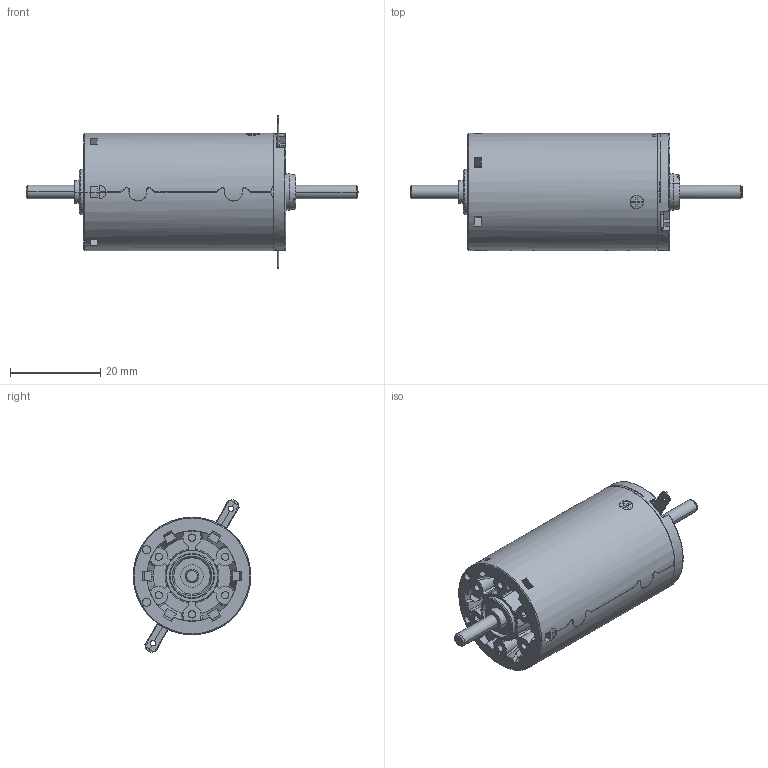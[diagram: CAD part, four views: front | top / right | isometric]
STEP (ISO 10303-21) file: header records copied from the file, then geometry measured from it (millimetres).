
FILE_DESCRIPTION((''),'2;1');
FILE_NAME('110192_AMAX26_EB_4W_SL_2WE','2016-10-14T',('mmagvisi'),(''),'CREO PARAMETRIC BY PTC INC, 2016050','CREO PARAMETRIC BY PTC INC, 2016050','');
FILE_SCHEMA(('CONFIG_CONTROL_DESIGN'));
Length unit declared in the file: millimetre
Products named in the file (1): 110192_AMAX26_EB_4W_SL_2WE
Bounding box: 73.5 x 26 x 33.86 mm (x, y, z)
Volume: 23155.2 mm3; surface area: 6720.4 mm2
Topology: 1 solids, 1 shells, 393 faces, 1079 edges, 698 vertices
Faces by surface type: plane 232, cylinder 111, cone 24, bspline 24, torus 2
Entity records: 20147 total; most frequent: CARTESIAN_POINT 4860, ORIENTED_EDGE 2158, DIRECTION 1919, PRESENTATION_STYLE_ASSIGNMENT 1365, STYLED_ITEM 1080, CURVE_STYLE 1079, EDGE_CURVE 1079, VERTEX_POINT 698
